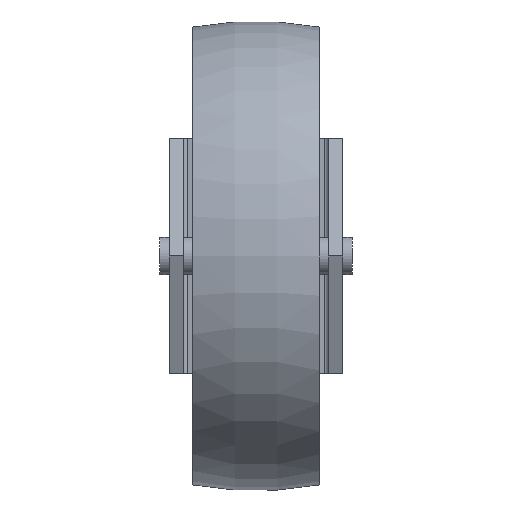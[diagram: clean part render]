
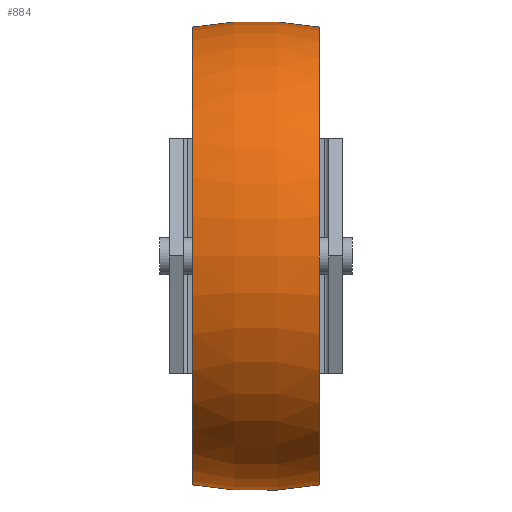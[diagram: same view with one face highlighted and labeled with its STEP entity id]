
A CAD part, front view. The second image highlights one B-rep face of the part: STEP entity #884.
In plain terms, the highlighted toroidal (fillet/blend) face has major radius 25 mm and minor radius 75 mm.
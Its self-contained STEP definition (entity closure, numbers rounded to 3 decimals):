
#67 = EDGE_CURVE ( 'NONE', #870, #713, #254, .T. ) ;
#77 = ORIENTED_EDGE ( 'NONE', *, *, #445, .F. ) ;
#117 = ORIENTED_EDGE ( 'NONE', *, *, #264, .T. ) ;
#129 = EDGE_CURVE ( 'NONE', #230, #425, #689, .T. ) ;
#176 = DIRECTION ( 'NONE',  ( 0., 0., 1. ) ) ;
#206 = DIRECTION ( 'NONE',  ( 0., 0., -1. ) ) ;
#230 = VERTEX_POINT ( 'NONE', #1034 ) ;
#254 = CIRCLE ( 'NONE', #540, 75. ) ;
#264 = EDGE_CURVE ( 'NONE', #870, #230, #1090, .T. ) ;
#274 = CIRCLE ( 'NONE', #956, 48.775 ) ;
#287 = CARTESIAN_POINT ( 'NONE',  ( -13.5, -78., 48.775 ) ) ;
#350 = CARTESIAN_POINT ( 'NONE',  ( -13.5, -78., 0. ) ) ;
#365 = AXIS2_PLACEMENT_3D ( 'NONE', #726, #539, #739 ) ;
#376 = FACE_OUTER_BOUND ( 'NONE', #675, .T. ) ;
#425 = VERTEX_POINT ( 'NONE', #572 ) ;
#445 = EDGE_CURVE ( 'NONE', #713, #425, #274, .T. ) ;
#463 = ORIENTED_EDGE ( 'NONE', *, *, #67, .F. ) ;
#467 = DIRECTION ( 'NONE',  ( 0., 1., 0. ) ) ;
#538 = ORIENTED_EDGE ( 'NONE', *, *, #129, .T. ) ;
#539 = DIRECTION ( 'NONE',  ( 1., 0., 0. ) ) ;
#540 = AXIS2_PLACEMENT_3D ( 'NONE', #977, #467, #176 ) ;
#547 = CARTESIAN_POINT ( 'NONE',  ( 13.5, -78., 0. ) ) ;
#572 = CARTESIAN_POINT ( 'NONE',  ( 13.5, -78., -48.775 ) ) ;
#597 = AXIS2_PLACEMENT_3D ( 'NONE', #350, #898, #712 ) ;
#618 = CARTESIAN_POINT ( 'NONE',  ( 13.5, -78., 48.775 ) ) ;
#675 = EDGE_LOOP ( 'NONE', ( #463, #117, #538, #77 ) ) ;
#689 = CIRCLE ( 'NONE', #1072, 75. ) ;
#712 = DIRECTION ( 'NONE',  ( 0., 0., -1. ) ) ;
#713 = VERTEX_POINT ( 'NONE', #618 ) ;
#726 = CARTESIAN_POINT ( 'NONE',  ( 0., -78., 0. ) ) ;
#739 = DIRECTION ( 'NONE',  ( 0., 0., -1. ) ) ;
#773 = TOROIDAL_SURFACE ( 'NONE', #365, -25., 75. ) ;
#870 = VERTEX_POINT ( 'NONE', #287 ) ;
#884 = ADVANCED_FACE ( 'NONE', ( #376 ), #773, .T. ) ;
#898 = DIRECTION ( 'NONE',  ( 1., 0., 0. ) ) ;
#902 = DIRECTION ( 'NONE',  ( 1., 0., 0. ) ) ;
#956 = AXIS2_PLACEMENT_3D ( 'NONE', #547, #902, #1088 ) ;
#977 = CARTESIAN_POINT ( 'NONE',  ( 0., -78., -25. ) ) ;
#993 = DIRECTION ( 'NONE',  ( 0., -1., 0. ) ) ;
#1034 = CARTESIAN_POINT ( 'NONE',  ( -13.5, -78., -48.775 ) ) ;
#1072 = AXIS2_PLACEMENT_3D ( 'NONE', #1078, #993, #206 ) ;
#1078 = CARTESIAN_POINT ( 'NONE',  ( 0., -78., 25. ) ) ;
#1088 = DIRECTION ( 'NONE',  ( 0., 0., -1. ) ) ;
#1090 = CIRCLE ( 'NONE', #597, 48.775 ) ;
